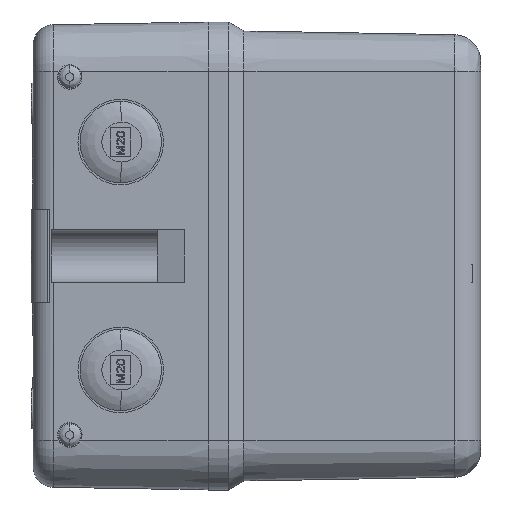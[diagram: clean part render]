
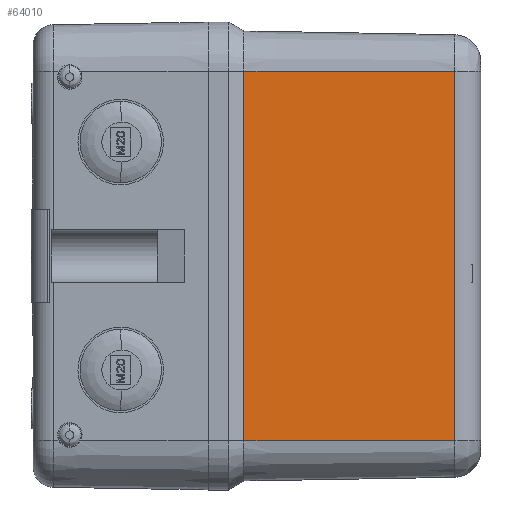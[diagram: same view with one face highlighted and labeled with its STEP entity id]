
A CAD part, front view. The second image highlights one B-rep face of the part: STEP entity #64010.
In plain terms, the highlighted planar face has unit normal (0.018, -1, 0) as drawn and (0, -1, 0.017) by its records, which use the part's own axes.
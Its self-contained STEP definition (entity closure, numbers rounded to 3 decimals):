
#57231=DIRECTION('',(1.,0.,0.));
#57232=VECTOR('',#57231,90.8);
#57233=CARTESIAN_POINT('',(-45.4,3.114,60.613));
#57234=LINE('',#57233,#57232);
#57235=DIRECTION('',(0.,-0.017,
-1.));
#57236=VECTOR('',#57235,51.833);
#57237=CARTESIAN_POINT('',(45.4,3.114,60.613));
#57238=LINE('',#57237,#57236);
#57239=DIRECTION('',(1.,0.,0.));
#57240=VECTOR('',#57239,90.8);
#57241=CARTESIAN_POINT('',(-45.4,2.21,8.788));
#57242=LINE('',#57241,#57240);
#57243=DIRECTION('',(0.,-0.017,-1.));
#57244=VECTOR('',#57243,51.833);
#57245=CARTESIAN_POINT('',(-45.4,3.114,60.613));
#57246=LINE('',#57245,#57244);
#62956=CARTESIAN_POINT('',(-45.4,2.21,8.788));
#62957=VERTEX_POINT('',#62956);
#62958=CARTESIAN_POINT('',(45.4,2.21,8.788));
#62959=VERTEX_POINT('',#62958);
#62984=CARTESIAN_POINT('',(-45.4,3.114,60.613));
#62985=VERTEX_POINT('',#62984);
#62988=CARTESIAN_POINT('',(45.4,3.114,60.613));
#62989=VERTEX_POINT('',#62988);
#63996=CARTESIAN_POINT('',(-55.861,2.1,2.5));
#63997=DIRECTION('',(0.,-1.,0.017));
#63998=DIRECTION('',(-1.,0.,0.));
#63999=AXIS2_PLACEMENT_3D('',#63996,#63997,#63998);
#64000=PLANE('',#63999);
#64002=ORIENTED_EDGE('',*,*,#64001,.T.);
#64004=ORIENTED_EDGE('',*,*,#64003,.T.);
#64005=ORIENTED_EDGE('',*,*,#63978,.F.);
#64007=ORIENTED_EDGE('',*,*,#64006,.F.);
#64008=EDGE_LOOP('',(#64002,#64004,#64005,#64007));
#64009=FACE_OUTER_BOUND('',#64008,.F.);
#64010=ADVANCED_FACE('',(#64009),#64000,.T.);
#63978=EDGE_CURVE('',#62957,#62959,#57242,.T.);
#64001=EDGE_CURVE('',#62985,#62989,#57234,.T.);
#64003=EDGE_CURVE('',#62989,#62959,#57238,.T.);
#64006=EDGE_CURVE('',#62985,#62957,#57246,.T.);
